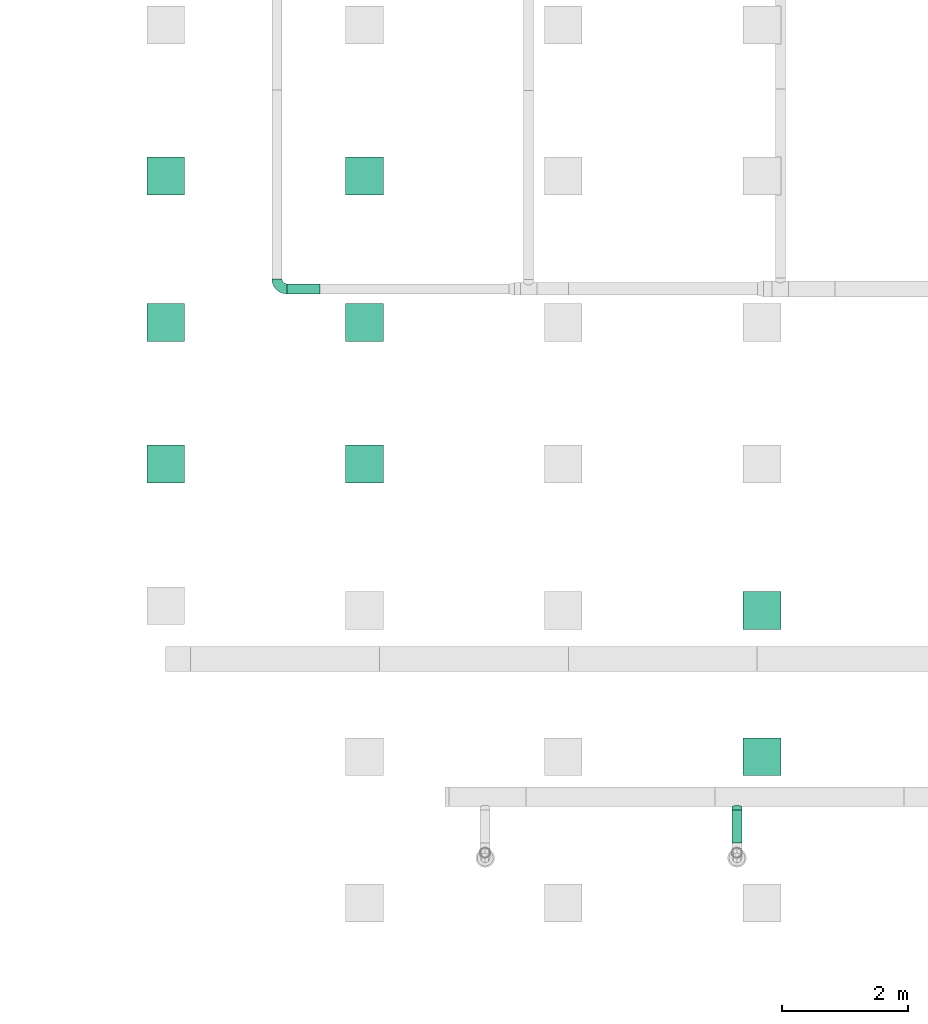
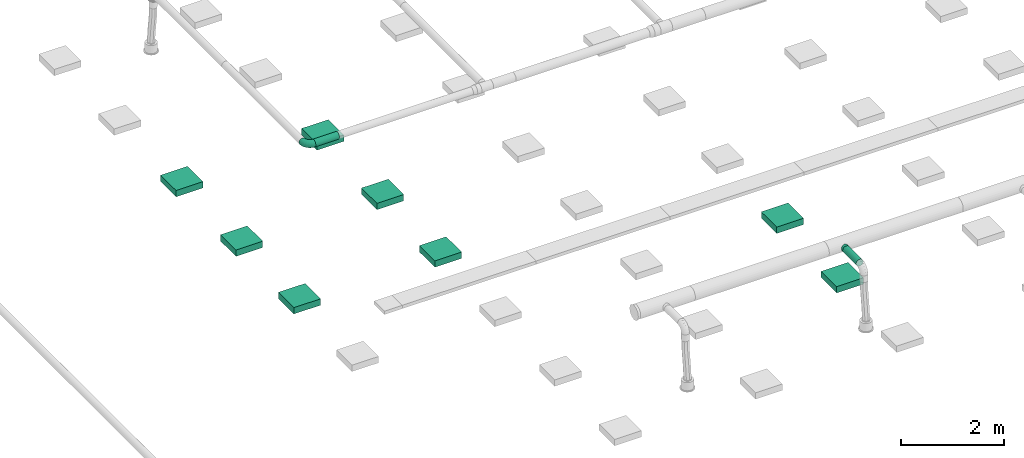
# One storey, part 19 of 374: 8 distribution elements, 3 flow segments, 1 flow fitting.
"""IFC2X3 building model written with IfcOpenShell, lengths in metres."""

from ifc_helpers import new_model, si_unit, direction, frame, frame_2d, origin, place, context, subcontext, project, spatial, rectangle, extrude, open_shell, surface_model, source, transform, mapped, element, save


model = new_model("IFC2X3")

# Units and contexts
model_context = context("Model", 3, precision=1e-05, world=origin(), true_north=direction((-0.4480736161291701, 0.8939966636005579)))
body_context = subcontext(model_context, "Body", "Model", "MODEL_VIEW")
ifc_project = project(units=[si_unit("LENGTHUNIT", "METRE"), si_unit("AREAUNIT", "SQUARE_METRE"), si_unit("VOLUMEUNIT", "CUBIC_METRE"), si_unit("PLANEANGLEUNIT", "RADIAN"), si_unit("THERMODYNAMICTEMPERATUREUNIT", "KELVIN"), si_unit("MASSUNIT", "GRAM", prefix="KILO"), si_unit("TIMEUNIT", "SECOND")], contexts=[model_context])

# Site, building, storey
site_placement = place(None, origin())
site = spatial("IfcSite", under=ifc_project, at=site_placement, Name="Site 1", CompositionType="ELEMENT")
building_placement = place(site_placement, origin())
building = spatial("IfcBuilding", under=site, at=building_placement, Name="Undefined", CompositionType="ELEMENT")
storey_placement = place(building_placement, origin())
storey = spatial("IfcBuildingStorey", under=building, at=storey_placement, Name="Rez de chauss\x8ee", CompositionType="ELEMENT", Elevation=0.0)

# Flow fitting
shared_shape_1 = source(origin(), body_context, "Body", "SurfaceModel", [
    surface_model("IfcFaceBasedSurfaceModel", [(0.06265257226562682, -8.8817842e-16, 0.0), (0.062296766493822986, 0.02088115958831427, -7.105427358e-15), (0.0003558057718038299, 0.020881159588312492, 7.105427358e-15), (0.0, 0.0, 0.0), (-0.059474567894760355, 0.022956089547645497, -0.015896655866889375), (-0.06051773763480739, 0.002098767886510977, -0.01607928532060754), (-0.11311701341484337, 0.02696454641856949, -0.04660663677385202), (-0.11477645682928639, 0.006153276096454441, -0.04714207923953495), (-0.15691588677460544, 0.0326333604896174, -0.09003710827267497), (-0.15907851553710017, 0.01188721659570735, -0.09107150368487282), (-0.18788636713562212, 0.03957621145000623, -0.14322835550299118), (-0.1904048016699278, 0.01890983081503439, -0.14487384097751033), (-0.2039178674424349, 0.04731995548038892, -0.20255548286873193), (-0.20662048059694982, 0.026742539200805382, -0.20488255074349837), (0.061253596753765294, 0.04103889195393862, -0.0053597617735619), (0.0013989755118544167, 0.04103889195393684, -0.005359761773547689), (-0.05641614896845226, 0.04304393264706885, -0.02072097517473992), (-0.10825177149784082, 0.04691737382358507, -0.050396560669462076), (-0.15057538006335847, 0.05239524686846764, -0.09236417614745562), (-0.18050269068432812, 0.05910424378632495, -0.14376379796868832), (-0.19599420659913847, 0.06658715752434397, -0.20109262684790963), (0.05959415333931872, 0.05909948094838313, -0.01571402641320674), (0.003058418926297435, 0.05909948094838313, -0.01571402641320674), (-0.05155090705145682, 0.06099334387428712, -0.030223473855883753), (-0.10051228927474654, 0.06465200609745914, -0.058253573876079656), (-0.1404890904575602, 0.0698261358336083, -0.09789412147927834), (-0.16875695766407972, 0.0761631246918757, -0.14644367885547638), (-0.18338948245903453, 0.08323111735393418, -0.2005936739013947), (0.057431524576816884, 0.07383212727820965, -0.030357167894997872), (0.005221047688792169, 0.07383212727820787, -0.03035716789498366), (-0.0452104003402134, 0.07558110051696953, -0.04375657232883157), (-0.09042599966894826, 0.07895985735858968, -0.06964223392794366), (-0.12734438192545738, 0.08373814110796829, -0.10625008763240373), (-0.15344962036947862, 0.08959031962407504, -0.15108536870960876), (-0.16696268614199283, 0.0961175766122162, -0.20109262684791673), (0.054913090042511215, 0.0842328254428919, -0.048291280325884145), (0.007739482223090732, 0.08423282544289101, -0.04829128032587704), (-0.037826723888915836, 0.08581307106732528, -0.06039801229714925), (-0.07868026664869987, 0.08886587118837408, -0.08378642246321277), (-0.11203704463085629, 0.09318318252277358, -0.11686262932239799), (-0.13562384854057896, 0.09847078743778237, -0.1573725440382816), (-0.14783327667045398, 0.10436834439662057, -0.20255548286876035), (0.05221047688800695, 0.0895927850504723, -0.06829418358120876), (0.010442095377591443, 0.08959278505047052, -0.06829418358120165), (-0.029903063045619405, 0.09099196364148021, -0.07901370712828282), (-0.06607554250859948, 0.09369496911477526, -0.0997222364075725), (-0.0956102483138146, 0.0975175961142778, -0.12900851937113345), (-0.11649443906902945, 0.10219933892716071, -0.16487674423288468), (-0.12730489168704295, 0.1074211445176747, -0.2048825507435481), (0.04950786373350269, 0.08954673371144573, -0.08900271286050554), (0.013144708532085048, 0.08954673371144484, -0.08900271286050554), (-0.02197940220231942, 0.09076484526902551, -0.09833502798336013), (-0.05347081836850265, 0.09311805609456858, -0.11636367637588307), (-0.0791834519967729, 0.09644599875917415, -0.14186003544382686), (-0.09736502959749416, 0.10052187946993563, -0.17308657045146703), (-0.10677650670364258, 0.1050679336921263, -0.20791524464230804), (0.04698942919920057, 0.08409780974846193, -0.10900561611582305), (0.015663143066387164, 0.08409780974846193, -0.10900561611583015), (-0.014595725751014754, 0.08514719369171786, -0.11704525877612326), (-0.0417250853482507, 0.0871744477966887, -0.13257665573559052), (-0.06387611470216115, 0.09004141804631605, -0.15454136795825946), (-0.07953925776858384, 0.09355272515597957, -0.1814425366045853), (-0.08764709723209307, 0.09746907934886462, -0.21144689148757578), (0.04482680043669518, 0.0736173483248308, -0.12693972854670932), (0.017825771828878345, 0.0736173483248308, -0.12693972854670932), (-0.008255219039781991, 0.07452184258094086, -0.13386932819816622), (-0.03163879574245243, 0.0762691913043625, -0.14725628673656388), (-0.050731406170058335, 0.07874031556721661, -0.1661883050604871), (-0.06423192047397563, 0.08176681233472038, -0.18937519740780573), (-0.07122030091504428, 0.08514243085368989, -0.21523681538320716), (0.04316735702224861, 0.058819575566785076, -0.14158287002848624), (0.019485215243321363, 0.058819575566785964, -0.14158287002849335), (-0.0033899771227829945, 0.05961289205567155, -0.14766070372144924), (-0.02389931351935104, 0.06114546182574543, -0.15940217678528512), (-0.04064511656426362, 0.06331284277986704, -0.17600712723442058), (-0.052486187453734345, 0.06596733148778, -0.19634395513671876), (-0.05861557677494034, 0.06892802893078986, -0.2190267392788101), (0.04212418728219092, 0.040712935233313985, -0.15193713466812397), (0.020528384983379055, 0.040712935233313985, -0.15193713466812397), (-0.0003315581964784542, 0.041436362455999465, -0.15747952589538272), (-0.019034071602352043, 0.04283391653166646, -0.16818660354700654), (-0.03430460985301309, 0.04481035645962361, -0.1833286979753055), (-0.04510251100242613, 0.047230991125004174, -0.20187390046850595), (-0.05069191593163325, 0.04993085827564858, -0.22255838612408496), (0.04176838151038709, 0.02053136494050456, -0.15729689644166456), (0.020884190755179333, 0.02053136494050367, -0.15729689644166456), (0.0007116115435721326, 0.021230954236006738, -0.16265665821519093), (-0.017374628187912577, 0.022582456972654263, -0.17301092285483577), (-0.03214198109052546, 0.024493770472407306, -0.1876540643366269), (-0.042584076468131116, 0.026834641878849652, -0.20558817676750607), (-0.04798930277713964, 0.02944554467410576, -0.22559108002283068), (0.04212418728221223, -0.000349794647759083, -0.15729689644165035), (0.020528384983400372, -0.000349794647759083, -0.15729689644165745), (-0.0003315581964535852, 0.00037363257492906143, -0.1628392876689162), (-0.019034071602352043, 0.0017711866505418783, -0.17354636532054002), (-0.03430460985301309, 0.0037476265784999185, -0.18868845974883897), (-0.04510251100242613, 0.00616826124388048, -0.20723366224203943), (-0.05069191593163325, 0.008868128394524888, -0.22791814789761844), (0.04316735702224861, -0.020507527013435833, -0.15193713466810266), (0.019485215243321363, -0.020507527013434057, -0.15193713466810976), (-0.0033899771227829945, -0.019714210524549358, -0.15801496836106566), (-0.02389931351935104, -0.01818164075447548, -0.16975644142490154), (-0.04064511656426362, -0.01601425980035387, -0.186361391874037), (-0.052486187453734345, -0.013359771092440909, -0.20669821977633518), (-0.05861557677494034, -0.010399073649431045, -0.22938100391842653), (0.04482680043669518, -0.03856811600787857, -0.1415828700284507), (0.017825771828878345, -0.03856811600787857, -0.1415828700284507), (-0.008255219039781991, -0.03766362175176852, -0.1485124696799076), (-0.03163879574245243, -0.03591627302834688, -0.16189942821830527), (-0.050731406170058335, -0.03344514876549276, -0.1808314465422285), (-0.06423192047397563, -0.030418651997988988, -0.20401833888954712), (-0.07122030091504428, -0.027043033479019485, -0.22987995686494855), (0.04698942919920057, -0.05330076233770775, -0.12693972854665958), (0.015663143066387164, -0.05330076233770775, -0.12693972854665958), (-0.014595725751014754, -0.05225137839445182, -0.1349793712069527), (-0.0417250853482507, -0.05022412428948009, -0.15051076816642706), (-0.06387611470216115, -0.047357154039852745, -0.172475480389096), (-0.07953925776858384, -0.043845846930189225, -0.19937664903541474), (-0.08764709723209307, -0.03992949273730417, -0.2293810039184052), (0.04950786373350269, -0.06370146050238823, -0.10900561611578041), (0.013144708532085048, -0.06370146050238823, -0.10900561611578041), (-0.02197940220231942, -0.06248334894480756, -0.11833793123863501), (-0.05347081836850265, -0.06013013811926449, -0.13636657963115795), (-0.0791834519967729, -0.05680219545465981, -0.16186293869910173), (-0.09736502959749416, -0.05272631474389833, -0.1930894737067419), (-0.10677650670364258, -0.04818026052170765, -0.2279181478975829), (0.05221047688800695, -0.06906142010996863, -0.08900271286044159), (0.010442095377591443, -0.06906142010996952, -0.08900271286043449), (-0.029903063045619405, -0.06766224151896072, -0.09972223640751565), (-0.06607554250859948, -0.06495923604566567, -0.12043076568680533), (-0.0956102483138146, -0.06113660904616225, -0.14971704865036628), (-0.11649443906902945, -0.05645486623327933, -0.1855852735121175), (-0.12730489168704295, -0.05123306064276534, -0.22559108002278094), (0.054913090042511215, -0.06901536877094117, -0.06829418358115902), (0.007739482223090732, -0.06901536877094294, -0.06829418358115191), (-0.037826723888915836, -0.06743512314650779, -0.08040091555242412), (-0.07868026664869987, -0.06438232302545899, -0.10378932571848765), (-0.11203704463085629, -0.06006501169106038, -0.13686553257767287), (-0.13562384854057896, -0.0547774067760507, -0.17737544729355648), (-0.14783327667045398, -0.04887984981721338, -0.22255838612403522), (0.057431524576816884, -0.06356644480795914, -0.0482912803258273), (0.005221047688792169, -0.06356644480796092, -0.04829128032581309), (-0.0452104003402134, -0.061817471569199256, -0.0616906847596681), (-0.09042599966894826, -0.05843871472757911, -0.0875763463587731), (-0.12734438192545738, -0.05366043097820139, -0.12418420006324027), (-0.15344962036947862, -0.04780825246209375, -0.1690194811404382), (-0.16696268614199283, -0.041280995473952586, -0.21902673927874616), (0.05959415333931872, -0.05308598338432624, -0.030357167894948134), (0.003058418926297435, -0.05308598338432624, -0.030357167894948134), (-0.05155090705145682, -0.05119212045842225, -0.04486661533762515), (-0.10051228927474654, -0.04753345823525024, -0.07289671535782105), (-0.1404890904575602, -0.04235932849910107, -0.11253726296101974), (-0.16875695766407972, -0.03602233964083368, -0.16108682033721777), (-0.18338948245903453, -0.02895434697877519, -0.2152368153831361), (0.061253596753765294, -0.03828821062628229, -0.015714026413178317), (0.0013989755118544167, -0.03828821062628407, -0.015714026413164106), (-0.05641614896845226, -0.03628316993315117, -0.031075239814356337), (-0.10825177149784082, -0.03240972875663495, -0.06075082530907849), (-0.15057538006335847, -0.026931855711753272, -0.10271844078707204), (-0.18050269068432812, -0.02022285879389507, -0.15411806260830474), (-0.19599420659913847, -0.012739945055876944, -0.21144689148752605), (0.062296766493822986, -0.020181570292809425, -0.005359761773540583), (0.0003558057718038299, -0.020181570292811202, -0.0053597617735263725), (-0.059474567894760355, -0.018106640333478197, -0.021256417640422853), (-0.11311701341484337, -0.014098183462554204, -0.051966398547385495), (-0.15691588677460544, -0.00842936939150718, -0.09539687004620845), (-0.18788636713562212, -0.0014865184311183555, -0.14858811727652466), (-0.2039178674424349, 0.006257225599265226, -0.2079152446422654)], [open_shell([[[0, 1, 2, 3]], [[3, 2, 4, 5]], [[5, 4, 6, 7]], [[7, 6, 8, 9]], [[9, 8, 10, 11]], [[11, 10, 12, 13]], [[1, 14, 15, 2]], [[2, 15, 16, 4]], [[4, 16, 17, 6]], [[6, 17, 18, 8]], [[8, 18, 19, 10]], [[10, 19, 20, 12]], [[14, 21, 22, 15]], [[15, 22, 23, 16]], [[16, 23, 24, 17]], [[17, 24, 25, 18]], [[18, 25, 26, 19]], [[19, 26, 27, 20]], [[21, 28, 29, 22]], [[22, 29, 30, 23]], [[23, 30, 31, 24]], [[24, 31, 32, 25]], [[25, 32, 33, 26]], [[26, 33, 34, 27]], [[28, 35, 36, 29]], [[29, 36, 37, 30]], [[30, 37, 38, 31]], [[31, 38, 39, 32]], [[32, 39, 40, 33]], [[33, 40, 41, 34]], [[35, 42, 43, 36]], [[36, 43, 44, 37]], [[37, 44, 45, 38]], [[38, 45, 46, 39]], [[39, 46, 47, 40]], [[40, 47, 48, 41]], [[42, 49, 50, 43]], [[43, 50, 51, 44]], [[44, 51, 52, 45]], [[45, 52, 53, 46]], [[46, 53, 54, 47]], [[47, 54, 55, 48]], [[49, 56, 57, 50]], [[50, 57, 58, 51]], [[51, 58, 59, 52]], [[52, 59, 60, 53]], [[53, 60, 61, 54]], [[54, 61, 62, 55]], [[56, 63, 64, 57]], [[57, 64, 65, 58]], [[58, 65, 66, 59]], [[59, 66, 67, 60]], [[60, 67, 68, 61]], [[61, 68, 69, 62]], [[63, 70, 71, 64]], [[64, 71, 72, 65]], [[65, 72, 73, 66]], [[66, 73, 74, 67]], [[67, 74, 75, 68]], [[68, 75, 76, 69]], [[70, 77, 78, 71]], [[71, 78, 79, 72]], [[72, 79, 80, 73]], [[73, 80, 81, 74]], [[74, 81, 82, 75]], [[75, 82, 83, 76]], [[77, 84, 85, 78]], [[78, 85, 86, 79]], [[79, 86, 87, 80]], [[80, 87, 88, 81]], [[81, 88, 89, 82]], [[82, 89, 90, 83]], [[84, 91, 92, 85]], [[85, 92, 93, 86]], [[86, 93, 94, 87]], [[87, 94, 95, 88]], [[88, 95, 96, 89]], [[89, 96, 97, 90]], [[91, 98, 99, 92]], [[92, 99, 100, 93]], [[93, 100, 101, 94]], [[94, 101, 102, 95]], [[95, 102, 103, 96]], [[96, 103, 104, 97]], [[98, 105, 106, 99]], [[99, 106, 107, 100]], [[100, 107, 108, 101]], [[101, 108, 109, 102]], [[102, 109, 110, 103]], [[103, 110, 111, 104]], [[105, 112, 113, 106]], [[106, 113, 114, 107]], [[107, 114, 115, 108]], [[108, 115, 116, 109]], [[109, 116, 117, 110]], [[110, 117, 118, 111]], [[112, 119, 120, 113]], [[113, 120, 121, 114]], [[114, 121, 122, 115]], [[115, 122, 123, 116]], [[116, 123, 124, 117]], [[117, 124, 125, 118]], [[119, 126, 127, 120]], [[120, 127, 128, 121]], [[121, 128, 129, 122]], [[122, 129, 130, 123]], [[123, 130, 131, 124]], [[124, 131, 132, 125]], [[126, 133, 134, 127]], [[127, 134, 135, 128]], [[128, 135, 136, 129]], [[129, 136, 137, 130]], [[130, 137, 138, 131]], [[131, 138, 139, 132]], [[133, 140, 141, 134]], [[134, 141, 142, 135]], [[135, 142, 143, 136]], [[136, 143, 144, 137]], [[137, 144, 145, 138]], [[138, 145, 146, 139]], [[140, 147, 148, 141]], [[141, 148, 149, 142]], [[142, 149, 150, 143]], [[143, 150, 151, 144]], [[144, 151, 152, 145]], [[145, 152, 153, 146]], [[147, 154, 155, 148]], [[148, 155, 156, 149]], [[149, 156, 157, 150]], [[150, 157, 158, 151]], [[151, 158, 159, 152]], [[152, 159, 160, 153]], [[154, 161, 162, 155]], [[155, 162, 163, 156]], [[156, 163, 164, 157]], [[157, 164, 165, 158]], [[158, 165, 166, 159]], [[159, 166, 167, 160]], [[161, 0, 3, 162]], [[162, 3, 5, 163]], [[163, 5, 7, 164]], [[164, 7, 9, 165]], [[165, 9, 11, 166]], [[166, 11, 13, 167]]])]),
])
flow_fitting_placement = place(storey_placement, origin())
element("IfcFlowFitting", 1, at=flow_fitting_placement, inside=storey, Name="Coude", ObjectType="Coude", context=body_context, shape_type="MappedRepresentation", body=[
    mapped(shared_shape_1, transform((3.0779365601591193, 10.847371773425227, 3.8000000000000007), x_axis=(0.9914448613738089, -0.13052619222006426, 0.0), y_axis=(0.016893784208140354, 0.12832103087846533, 0.9915887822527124), z_axis=(-0.1294283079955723, -0.9831056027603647, 0.12942830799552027))),
])

# Flow segments
shared_shape_2 = source(origin(), body_context, "Body", "SurfaceModel", [
    surface_model("IfcFaceBasedSurfaceModel", [(0.0013669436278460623, 0.02088419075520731, 0.0), (0.0, 0.0, 0.0), (0.05136694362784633, -8.8817842e-16, 0.0), (0.05136694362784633, 0.02088419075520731, 0.0), (-0.0037970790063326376, -0.020172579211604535, -0.005405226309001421), (0.05136694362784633, -0.020172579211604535, -0.005405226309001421), (-0.009142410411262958, -0.03825881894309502, -0.015847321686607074), (0.05136694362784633, -0.03825881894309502, -0.015847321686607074), (-0.014689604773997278, -0.05302617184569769, -0.030614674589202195), (0.05136694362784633, -0.05302617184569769, -0.030614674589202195), (-0.018892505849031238, -0.06346826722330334, -0.04870091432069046), (0.05136694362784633, -0.06346826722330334, -0.04870091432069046), (-0.020463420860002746, -0.06887349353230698, -0.0688734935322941), (0.05136694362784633, -0.06887349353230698, -0.0688734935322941), (-0.018892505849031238, -0.06887349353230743, -0.08975768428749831), (0.05136694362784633, -0.06887349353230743, -0.08975768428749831), (-0.014689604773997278, -0.06346826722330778, -0.10993026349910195), (0.05136694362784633, -0.06346826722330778, -0.10993026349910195), (-0.009142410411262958, -0.05302617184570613, -0.12801650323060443), (0.05136694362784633, -0.05302617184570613, -0.12801650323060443), (-0.0037970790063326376, -0.03825881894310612, -0.14278385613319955), (0.05136694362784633, -0.03825881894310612, -0.14278385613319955), (0.0, -0.020172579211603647, -0.15322595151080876), (0.05136694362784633, -0.020172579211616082, -0.1532259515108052), (0.0013669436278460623, -1.3766765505e-14, -0.15863117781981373), (0.05136694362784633, -1.3766765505e-14, -0.15863117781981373), (0.0, 0.020884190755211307, -0.15863117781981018), (0.05136694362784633, 0.02088419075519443, -0.15863117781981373), (-0.0037970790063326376, 0.041056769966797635, -0.1532259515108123), (0.05136694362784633, 0.041056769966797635, -0.1532259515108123), (-0.009142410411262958, 0.05914300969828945, -0.14278385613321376), (0.05136694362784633, 0.05914300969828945, -0.14278385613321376), (-0.014689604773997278, 0.07391036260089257, -0.12801650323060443), (0.05136694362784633, 0.07391036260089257, -0.12801650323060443), (-0.018892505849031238, 0.08435245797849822, -0.10993026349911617), (0.05136694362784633, 0.08435245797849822, -0.10993026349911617), (-0.020463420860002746, 0.08975768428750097, -0.08975768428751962), (0.05136694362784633, 0.08975768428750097, -0.08975768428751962), (-0.018892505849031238, 0.0897576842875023, -0.06887349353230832), (0.05136694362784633, 0.0897576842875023, -0.06887349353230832), (-0.014689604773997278, 0.08435245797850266, -0.04870091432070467), (0.05136694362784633, 0.08435245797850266, -0.04870091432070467), (-0.009142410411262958, 0.07391036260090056, -0.030614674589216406), (0.05136694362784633, 0.07391036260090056, -0.030614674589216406), (-0.0037970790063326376, 0.05914300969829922, -0.01584732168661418), (0.05136694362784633, 0.05914300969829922, -0.01584732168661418), (0.0, 0.04105676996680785, -0.005405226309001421), (0.05136694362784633, 0.04105676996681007, -0.005405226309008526)], [open_shell([[[0, 1, 2, 3]], [[1, 4, 5, 2]], [[4, 6, 7, 5]], [[6, 8, 9, 7]], [[8, 10, 11, 9]], [[10, 12, 13, 11]], [[12, 14, 15, 13]], [[14, 16, 17, 15]], [[16, 18, 19, 17]], [[18, 20, 21, 19]], [[20, 22, 23, 21]], [[22, 24, 25, 23]], [[24, 26, 27, 25]], [[26, 28, 29, 27]], [[28, 30, 31, 29]], [[30, 32, 33, 31]], [[32, 34, 35, 33]], [[34, 36, 37, 35]], [[36, 38, 39, 37]], [[38, 40, 41, 39]], [[40, 42, 43, 41]], [[42, 44, 45, 43]], [[44, 46, 47, 45]], [[46, 0, 3, 47]]])]),
])
flow_segment_1_placement = place(storey_placement, origin())
element("IfcFlowSegment", 2, at=flow_segment_1_placement, inside=storey, Name="Piquage équerre circulaire", ObjectType="Piquage équerre circulaire", context=body_context, shape_type="MappedRepresentation", body=[
    mapped(shared_shape_2, transform((10.21272686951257, 2.6951646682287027, 3.779294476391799), x_axis=(0.0, -1.0, 0.0), y_axis=(-0.13052619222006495, 0.0, 0.9914448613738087), z_axis=(-0.9914448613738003, 0.0, -0.13052619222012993))),
])
shared_shape_3 = source(origin(), body_context, "Body", "SurfaceModel", [
    surface_model("IfcFaceBasedSurfaceModel", [(0.0, 0.020884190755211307, 0.0), (0.0, 0.0, 0.0), (0.5300000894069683, -4.4408921e-16, 0.0), (0.5300000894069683, 0.020884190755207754, -4.4408921e-16), (0.0, -0.020172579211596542, -0.005405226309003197), (0.5300000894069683, -0.020172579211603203, -0.005405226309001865), (0.0, -0.03825881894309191, -0.015847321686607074), (0.5300000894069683, -0.03825881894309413, -0.015847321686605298), (0.0, -0.05302617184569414, -0.0306146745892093), (0.5300000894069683, -0.053026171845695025, -0.030614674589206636), (0.0, -0.06346826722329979, -0.04870091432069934), (0.5300000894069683, -0.06346826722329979, -0.04870091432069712), (0.0, -0.06887349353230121, -0.06887349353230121), (0.5300000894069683, -0.0688734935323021, -0.06887349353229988), (0.0, -0.06887349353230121, -0.08975768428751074), (0.5300000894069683, -0.0688734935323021, -0.08975768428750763), (0.0, -0.06346826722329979, -0.10993026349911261), (0.5300000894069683, -0.06346826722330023, -0.10993026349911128), (0.0, -0.05302617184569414, -0.12801650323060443), (0.5300000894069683, -0.0530261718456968, -0.12801650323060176), (0.0, -0.038258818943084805, -0.14278385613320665), (0.5300000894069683, -0.03825881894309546, -0.1427838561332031), (0.0, -0.020172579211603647, -0.15322595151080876), (0.5300000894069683, -0.020172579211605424, -0.15322595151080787), (0.0, 7.105427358e-15, -0.15863117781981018), (0.5300000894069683, -2.664535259e-15, -0.15863117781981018), (0.0, 0.020884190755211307, -0.15863117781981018), (0.5300000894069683, 0.020884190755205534, -0.15863117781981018), (0.0, 0.04105676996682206, -0.15322595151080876), (0.5300000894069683, 0.04105676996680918, -0.1532259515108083), (0.0, 0.05914300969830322, -0.1427838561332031), (0.5300000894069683, 0.059143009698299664, -0.14278385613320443), (0.0, 0.07391036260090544, -0.12801650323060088), (0.5300000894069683, 0.073910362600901, -0.12801650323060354), (0.0, 0.0843524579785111, -0.10993026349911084), (0.5300000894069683, 0.08435245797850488, -0.10993026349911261), (0.0, 0.08975768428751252, -0.08975768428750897), (0.5300000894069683, 0.08975768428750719, -0.08975768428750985), (0.0, 0.08975768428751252, -0.06887349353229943), (0.5300000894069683, 0.08975768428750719, -0.0688734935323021), (0.0, 0.0843524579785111, -0.048700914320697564), (0.5300000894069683, 0.08435245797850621, -0.048700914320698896), (0.0, 0.07391036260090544, -0.030614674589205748), (0.5300000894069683, 0.07391036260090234, -0.03061467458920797), (0.0, 0.05914300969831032, -0.015847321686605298), (0.5300000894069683, 0.05914300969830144, -0.015847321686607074), (0.0, 0.04105676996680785, -0.005405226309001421), (0.5300000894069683, 0.041056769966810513, -0.005405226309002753)], [open_shell([[[0, 1, 2, 3]], [[1, 4, 5, 2]], [[4, 6, 7, 5]], [[6, 8, 9, 7]], [[8, 10, 11, 9]], [[10, 12, 13, 11]], [[12, 14, 15, 13]], [[14, 16, 17, 15]], [[16, 18, 19, 17]], [[18, 20, 21, 19]], [[20, 22, 23, 21]], [[22, 24, 25, 23]], [[24, 26, 27, 25]], [[26, 28, 29, 27]], [[28, 30, 31, 29]], [[30, 32, 33, 31]], [[32, 34, 35, 33]], [[34, 36, 37, 35]], [[36, 38, 39, 37]], [[38, 40, 41, 39]], [[40, 42, 43, 41]], [[42, 44, 45, 43]], [[44, 46, 47, 45]], [[46, 0, 3, 47]]])]),
])
flow_segment_2_placement = place(storey_placement, origin())
element("IfcFlowSegment", 3, at=flow_segment_2_placement, inside=storey, Name="Tube", ObjectType="Tube", context=body_context, shape_type="MappedRepresentation", body=[
    mapped(shared_shape_3, transform((3.6700532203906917, 10.939899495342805, 3.877274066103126), x_axis=(-1.0, 0.0, 0.0), y_axis=(7.266545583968e-12, -0.9914448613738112, 0.13052619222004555), z_axis=(0.0, 0.13052619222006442, 0.9914448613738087))),
])
shared_shape_4 = source(origin(), body_context, "Body", "SurfaceModel", [
    surface_model("IfcFaceBasedSurfaceModel", [(0.0, 0.020884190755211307, 0.0), (0.0, 0.0, 0.0), (0.5237979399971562, 0.0, -4.4408921e-16), (0.5237979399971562, 0.020884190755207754, -4.4408921e-16), (0.0, -0.020172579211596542, -0.005405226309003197), (0.5237979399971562, -0.020172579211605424, -0.005405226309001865), (0.0, -0.03825881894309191, -0.015847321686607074), (0.5237979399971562, -0.038258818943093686, -0.01584732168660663), (0.0, -0.05302617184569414, -0.0306146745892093), (0.5237979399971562, -0.05302617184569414, -0.03061467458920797), (0.0, -0.06346826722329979, -0.04870091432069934), (0.5237979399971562, -0.06346826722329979, -0.04870091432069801), (0.0, -0.06887349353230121, -0.06887349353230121), (0.5237979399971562, -0.06887349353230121, -0.06887349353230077), (0.0, -0.06887349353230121, -0.08975768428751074), (0.5237979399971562, -0.06887349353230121, -0.08975768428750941), (0.0, -0.06346826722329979, -0.10993026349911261), (0.5237979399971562, -0.06346826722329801, -0.10993026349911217), (0.0, -0.05302617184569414, -0.12801650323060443), (0.5237979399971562, -0.05302617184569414, -0.1280165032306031), (0.0, -0.038258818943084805, -0.14278385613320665), (0.5237979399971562, -0.038258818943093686, -0.14278385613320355), (0.0, -0.020172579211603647, -0.15322595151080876), (0.5237979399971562, -0.02017257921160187, -0.15322595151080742), (0.0, 7.105427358e-15, -0.15863117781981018), (0.5237979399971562, 0.0, -0.15863117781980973), (0.0, 0.020884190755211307, -0.15863117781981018), (0.5237979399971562, 0.02088419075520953, -0.1586311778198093), (0.0, 0.04105676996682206, -0.15322595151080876), (0.5237979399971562, 0.0410567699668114, -0.15322595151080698), (0.0, 0.05914300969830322, -0.1427838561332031), (0.5237979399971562, 0.05914300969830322, -0.14278385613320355), (0.0, 0.07391036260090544, -0.12801650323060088), (0.5237979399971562, 0.07391036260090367, -0.12801650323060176), (0.0, 0.0843524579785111, -0.10993026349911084), (0.5237979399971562, 0.08435245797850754, -0.10993026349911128), (0.0, 0.08975768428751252, -0.08975768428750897), (0.5237979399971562, 0.08975768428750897, -0.08975768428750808), (0.0, 0.08975768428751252, -0.06887349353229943), (0.5237979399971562, 0.08975768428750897, -0.06887349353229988), (0.0, 0.0843524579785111, -0.048700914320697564), (0.5237979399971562, 0.08435245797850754, -0.04870091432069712), (0.0, 0.07391036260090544, -0.030614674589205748), (0.5237979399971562, 0.07391036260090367, -0.03061467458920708), (0.0, 0.05914300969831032, -0.015847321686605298), (0.5237979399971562, 0.059143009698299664, -0.015847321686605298), (0.0, 0.04105676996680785, -0.005405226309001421), (0.5237979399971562, 0.0410567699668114, -0.005405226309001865)], [open_shell([[[0, 1, 2, 3]], [[1, 4, 5, 2]], [[4, 6, 7, 5]], [[6, 8, 9, 7]], [[8, 10, 11, 9]], [[10, 12, 13, 11]], [[12, 14, 15, 13]], [[14, 16, 17, 15]], [[16, 18, 19, 17]], [[18, 20, 21, 19]], [[20, 22, 23, 21]], [[22, 24, 25, 23]], [[24, 26, 27, 25]], [[26, 28, 29, 27]], [[28, 30, 31, 29]], [[30, 32, 33, 31]], [[32, 34, 35, 33]], [[34, 36, 37, 35]], [[36, 38, 39, 37]], [[38, 40, 41, 39]], [[40, 42, 43, 41]], [[42, 44, 45, 43]], [[44, 46, 47, 45]], [[46, 0, 3, 47]]])]),
])
flow_segment_3_placement = place(storey_placement, origin())
element("IfcFlowSegment", 4, at=flow_segment_3_placement, inside=storey, Name="Tube", ObjectType="Tube", context=body_context, shape_type="MappedRepresentation", body=[
    mapped(shared_shape_4, transform((10.269295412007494, 2.643797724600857, 3.877274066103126), x_axis=(0.0, -1.0, 0.0), y_axis=(0.9914448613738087, 0.0, 0.13052619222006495), z_axis=(-0.13052619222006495, 0.0, 0.9914448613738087))),
])

# Distribution elements
distribution_element_1_placement = place(storey_placement, origin())
element("IfcDistributionElement", 5, at=distribution_element_1_placement, inside=storey, Name="Decken-Rechteckleuchte mit Rahmen AP", ObjectType="Decken-Rechteckleuchte mit Rahmen AP", context=body_context, shape_type="SweptSolid", body=[
    extrude(rectangle(XDim=0.6000000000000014, YDim=0.6000000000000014, at=frame_2d((3.552713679e-15, 0.0), x_axis=(0.0, 1.0))), frame((10.689072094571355, 5.8125, 2.5500000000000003), z_axis=(0.0, 0.0, -1.0), x_axis=(1.0, 0.0, 0.0)), (0.0, 0.0, 1.0), 0.15),
])
distribution_element_2_placement = place(storey_placement, origin())
element("IfcDistributionElement", 6, at=distribution_element_2_placement, inside=storey, Name="Decken-Rechteckleuchte mit Rahmen AP", ObjectType="Decken-Rechteckleuchte mit Rahmen AP", context=body_context, shape_type="SweptSolid", body=[
    extrude(rectangle(XDim=0.6000000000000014, YDim=0.6000000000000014, at=frame_2d((3.552713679e-15, 0.0), x_axis=(0.0, 1.0))), frame((10.689072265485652, 3.4875, 2.5500000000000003), z_axis=(0.0, 0.0, -1.0), x_axis=(1.0, 0.0, 0.0)), (0.0, 0.0, 1.0), 0.15),
])
distribution_element_3_placement = place(storey_placement, origin())
element("IfcDistributionElement", 7, at=distribution_element_3_placement, inside=storey, Name="Decken-Rechteckleuchte mit Rahmen AP", ObjectType="Decken-Rechteckleuchte mit Rahmen AP", context=body_context, shape_type="SweptSolid", body=[
    extrude(rectangle(XDim=0.6000000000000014, YDim=0.6000000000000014, at=frame_2d((3.552713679e-15, 0.0), x_axis=(0.0, 1.0))), frame((4.373387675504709, 10.3875, 2.5500000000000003), z_axis=(0.0, 0.0, -1.0), x_axis=(1.0, 0.0, 0.0)), (0.0, 0.0, 1.0), 0.15),
])
distribution_element_4_placement = place(storey_placement, origin())
element("IfcDistributionElement", 8, at=distribution_element_4_placement, inside=storey, Name="Decken-Rechteckleuchte mit Rahmen AP", ObjectType="Decken-Rechteckleuchte mit Rahmen AP", context=body_context, shape_type="SweptSolid", body=[
    extrude(rectangle(XDim=0.6000000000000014, YDim=0.6000000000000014, at=frame_2d((3.552713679e-15, 0.0), x_axis=(0.0, 1.0))), frame((4.373387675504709, 8.1375, 2.5500000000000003), z_axis=(0.0, 0.0, -1.0), x_axis=(1.0, 0.0, 0.0)), (0.0, 0.0, 1.0), 0.15),
])
distribution_element_5_placement = place(storey_placement, origin())
element("IfcDistributionElement", 9, at=distribution_element_5_placement, inside=storey, Name="Decken-Rechteckleuchte mit Rahmen AP", ObjectType="Decken-Rechteckleuchte mit Rahmen AP", context=body_context, shape_type="SweptSolid", body=[
    extrude(rectangle(XDim=0.6000000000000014, YDim=0.6000000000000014, at=frame_2d((3.552713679e-15, 0.0), x_axis=(0.0, 1.0))), frame((4.373387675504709, 12.712499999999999, 2.5500000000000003), z_axis=(0.0, 0.0, -1.0), x_axis=(1.0, 0.0, 0.0)), (0.0, 0.0, 1.0), 0.15),
])
distribution_element_6_placement = place(storey_placement, origin())
element("IfcDistributionElement", 10, at=distribution_element_6_placement, inside=storey, Name="Decken-Rechteckleuchte mit Rahmen AP", ObjectType="Decken-Rechteckleuchte mit Rahmen AP", context=body_context, shape_type="SweptSolid", body=[
    extrude(rectangle(XDim=0.6000000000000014, YDim=0.6000000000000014, at=frame_2d((3.552713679e-15, 0.0), x_axis=(0.0, 1.0))), frame((1.2155453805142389, 10.3875, 2.5500000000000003), z_axis=(0.0, 0.0, -1.0), x_axis=(1.0, 0.0, 0.0)), (0.0, 0.0, 1.0), 0.15),
])
distribution_element_7_placement = place(storey_placement, origin())
element("IfcDistributionElement", 11, at=distribution_element_7_placement, inside=storey, Name="Decken-Rechteckleuchte mit Rahmen AP", ObjectType="Decken-Rechteckleuchte mit Rahmen AP", context=body_context, shape_type="SweptSolid", body=[
    extrude(rectangle(XDim=0.6000000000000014, YDim=0.6000000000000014, at=frame_2d((3.552713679e-15, 0.0), x_axis=(0.0, 1.0))), frame((1.2155453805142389, 8.1375, 2.5500000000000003), z_axis=(0.0, 0.0, -1.0), x_axis=(1.0, 0.0, 0.0)), (0.0, 0.0, 1.0), 0.15),
])
distribution_element_8_placement = place(storey_placement, origin())
element("IfcDistributionElement", 12, at=distribution_element_8_placement, inside=storey, Name="Decken-Rechteckleuchte mit Rahmen AP", ObjectType="Decken-Rechteckleuchte mit Rahmen AP", context=body_context, shape_type="SweptSolid", body=[
    extrude(rectangle(XDim=0.6000000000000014, YDim=0.6000000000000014, at=frame_2d((3.552713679e-15, 0.0), x_axis=(0.0, 1.0))), frame((1.2155453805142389, 12.712499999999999, 2.5500000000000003), z_axis=(0.0, 0.0, -1.0), x_axis=(1.0, 0.0, 0.0)), (0.0, 0.0, 1.0), 0.15),
])

save(model, "model.ifc")
